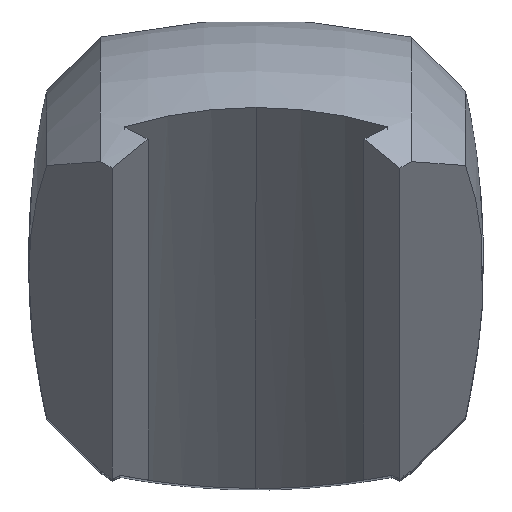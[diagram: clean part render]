
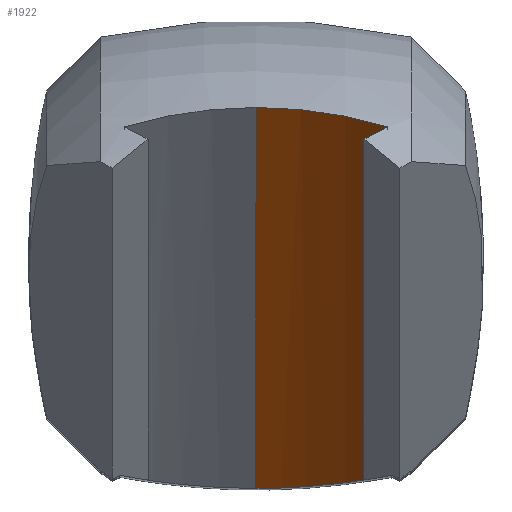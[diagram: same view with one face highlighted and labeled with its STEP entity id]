
A CAD part, top view. The second image highlights one B-rep face of the part: STEP entity #1922.
In plain terms, the highlighted cylindrical face has radius 29.287 mm (diameter 58.573 mm), a partial arc.
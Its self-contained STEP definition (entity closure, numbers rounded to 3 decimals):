
#62 = CARTESIAN_POINT ( 'NONE',  ( 4.914, -22.866, 63.98 ) ) ;
#80 = DIRECTION ( 'NONE',  ( 0., -0.707, -0.707 ) ) ;
#235 = EDGE_CURVE ( 'NONE', #2581, #2380, #2866, .T. ) ;
#237 = LINE ( 'NONE', #3953, #1367 ) ;
#365 = CARTESIAN_POINT ( 'NONE',  ( 9.99, -22.226, 65.945 ) ) ;
#401 = CARTESIAN_POINT ( 'NONE',  ( 2.88, -22.947, 63.731 ) ) ;
#515 = VERTEX_POINT ( 'NONE', #4295 ) ;
#833 = CYLINDRICAL_SURFACE ( 'NONE', #1221, 29.287 ) ;
#927 = FACE_OUTER_BOUND ( 'NONE', #3239, .T. ) ;
#965 = DIRECTION ( 'NONE',  ( 0., -0.707, -0.707 ) ) ;
#1004 = ORIENTED_EDGE ( 'NONE', *, *, #4040, .T. ) ;
#1221 = AXIS2_PLACEMENT_3D ( 'NONE', #1967, #965, #4039 ) ;
#1367 = VECTOR ( 'NONE', #2221, 1000. ) ;
#1493 = CARTESIAN_POINT ( 'NONE',  ( 9.993, -1.625, 86.546 ) ) ;
#1516 = CARTESIAN_POINT ( 'NONE',  ( 7.436, -0.955, 86.349 ) ) ;
#1702 = ORIENTED_EDGE ( 'NONE', *, *, #3076, .F. ) ;
#1749 = CARTESIAN_POINT ( 'NONE',  ( 8.807, -22.447, 65.262 ) ) ;
#1818 = B_SPLINE_CURVE_WITH_KNOTS ( 'NONE', 3,
 ( #1493, #3227, #1516, #3910, #1857, #4261 ),
 .UNSPECIFIED., .F., .F.,
 ( 4, 2, 4 ),
 ( 0., 0.004, 0.008 ),
 .UNSPECIFIED. ) ;
#1857 = CARTESIAN_POINT ( 'NONE',  ( 3.526, -0.475, 86.204 ) ) ;
#1922 = ADVANCED_FACE ( 'NONE', ( #927 ), #833, .F. ) ;
#1967 = CARTESIAN_POINT ( 'NONE',  ( 2.204, 20.925, 149.021 ) ) ;
#2077 = CARTESIAN_POINT ( 'NONE',  ( 5.594, -22.817, 64.131 ) ) ;
#2099 = CARTESIAN_POINT ( 'NONE',  ( 9.997, 40.887, 129.058 ) ) ;
#2221 = DIRECTION ( 'NONE',  ( 0., -0.707, -0.707 ) ) ;
#2380 = VERTEX_POINT ( 'NONE', #2851 ) ;
#2424 = CARTESIAN_POINT ( 'NONE',  ( 3.56, -22.931, 63.781 ) ) ;
#2581 = VERTEX_POINT ( 'NONE', #365 ) ;
#2769 = CARTESIAN_POINT ( 'NONE',  ( 2.197, -22.947, 63.731 ) ) ;
#2851 = CARTESIAN_POINT ( 'NONE',  ( 2.197, -22.947, 63.731 ) ) ;
#2866 = B_SPLINE_CURVE_WITH_KNOTS ( 'NONE', 3,
 ( #4158, #1749, #3811, #2077, #62, #2424, #401, #2769 ),
 .UNSPECIFIED., .F., .F.,
 ( 4, 2, 2, 4 ),
 ( 0., 0.004, 0.006, 0.008 ),
 .UNSPECIFIED. ) ;
#3076 = EDGE_CURVE ( 'NONE', #4201, #2581, #3626, .T. ) ;
#3093 = ORIENTED_EDGE ( 'NONE', *, *, #3217, .T. ) ;
#3217 = EDGE_CURVE ( 'NONE', #515, #2380, #237, .T. ) ;
#3227 = CARTESIAN_POINT ( 'NONE',  ( 8.721, -1.241, 86.435 ) ) ;
#3239 = EDGE_LOOP ( 'NONE', ( #1004, #3093, #3989, #1702 ) ) ;
#3626 = LINE ( 'NONE', #2099, #4191 ) ;
#3811 = CARTESIAN_POINT ( 'NONE',  ( 7.566, -22.628, 64.71 ) ) ;
#3910 = CARTESIAN_POINT ( 'NONE',  ( 4.839, -0.572, 86.234 ) ) ;
#3953 = CARTESIAN_POINT ( 'NONE',  ( 2.204, 41.634, 128.312 ) ) ;
#3989 = ORIENTED_EDGE ( 'NONE', *, *, #235, .F. ) ;
#3996 = CARTESIAN_POINT ( 'NONE',  ( 9.993, -1.625, 86.546 ) ) ;
#4039 = DIRECTION ( 'NONE',  ( 0., 0.707, -0.707 ) ) ;
#4040 = EDGE_CURVE ( 'NONE', #4201, #515, #1818, .T. ) ;
#4158 = CARTESIAN_POINT ( 'NONE',  ( 9.99, -22.226, 65.945 ) ) ;
#4191 = VECTOR ( 'NONE', #80, 1000. ) ;
#4201 = VERTEX_POINT ( 'NONE', #3996 ) ;
#4261 = CARTESIAN_POINT ( 'NONE',  ( 2.2, -0.475, 86.204 ) ) ;
#4295 = CARTESIAN_POINT ( 'NONE',  ( 2.2, -0.475, 86.204 ) ) ;
